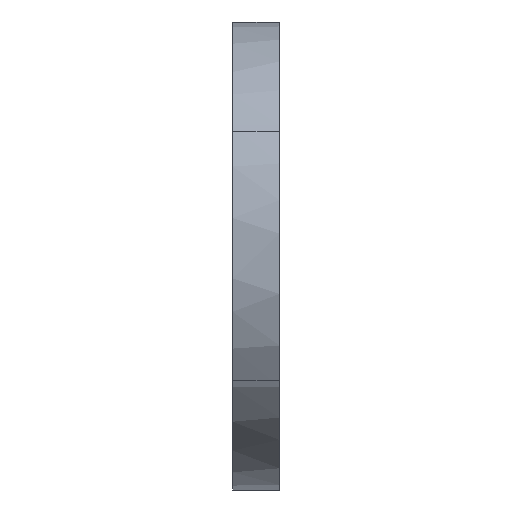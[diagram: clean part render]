
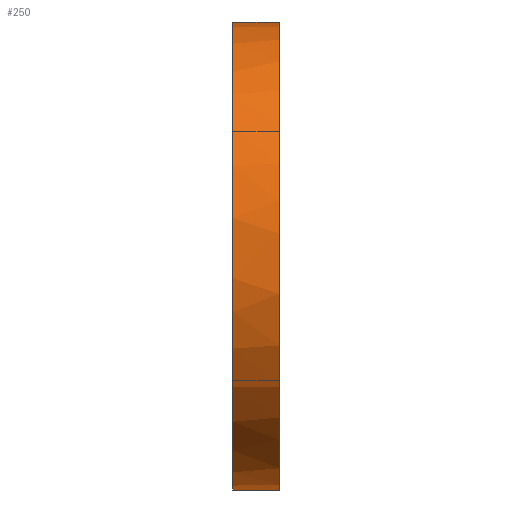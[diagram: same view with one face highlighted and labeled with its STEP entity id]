
A CAD part, left-side view. The second image highlights one B-rep face of the part: STEP entity #250.
In plain terms, the highlighted free-form (B-spline) face has degree [1, 2] with [2, 9] control points.
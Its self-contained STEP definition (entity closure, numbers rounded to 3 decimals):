
#250=ADVANCED_FACE('',(#268),#785,.T.);
#268=FACE_OUTER_BOUND('',#291,.T.);
#291=EDGE_LOOP('',(#345,#346,#347,#348));
#345=ORIENTED_EDGE('',*,*,#633,.T.);
#346=ORIENTED_EDGE('',*,*,#634,.T.);
#347=ORIENTED_EDGE('',*,*,#635,.T.);
#348=ORIENTED_EDGE('',*,*,#636,.T.);
#395=(
BOUNDED_CURVE()
B_SPLINE_CURVE(2,(#1520,#1521,#1522,#1523,#1524),.UNSPECIFIED.,.F.,.F.)
B_SPLINE_CURVE_WITH_KNOTS((3,2,3),(1.,2.571,4.142),
 .UNSPECIFIED.)
CURVE()
GEOMETRIC_REPRESENTATION_ITEM()
RATIONAL_B_SPLINE_CURVE((1.,0.707,1.,0.707,1.))
REPRESENTATION_ITEM('')
);
#396=(
BOUNDED_CURVE()
B_SPLINE_CURVE(2,(#1531,#1532,#1533,#1534,#1535),.UNSPECIFIED.,.F.,.F.)
B_SPLINE_CURVE_WITH_KNOTS((3,2,3),(5.142,6.712,8.283),
 .UNSPECIFIED.)
CURVE()
GEOMETRIC_REPRESENTATION_ITEM()
RATIONAL_B_SPLINE_CURVE((1.,0.707,1.,0.707,1.))
REPRESENTATION_ITEM('')
);
#453=PCURVE('',#785,#513);
#454=PCURVE('',#785,#514);
#455=PCURVE('',#785,#515);
#456=PCURVE('',#785,#516);
#513=DEFINITIONAL_REPRESENTATION('',(#704),#1621);
#514=DEFINITIONAL_REPRESENTATION('',(#705),#1621);
#515=DEFINITIONAL_REPRESENTATION('',(#707),#1621);
#516=DEFINITIONAL_REPRESENTATION('',(#708),#1621);
#573=SURFACE_CURVE('',#703,(#453),.PCURVE_S1.);
#574=SURFACE_CURVE('',#395,(#454),.PCURVE_S1.);
#575=SURFACE_CURVE('',#706,(#455),.PCURVE_S1.);
#576=SURFACE_CURVE('',#396,(#456),.PCURVE_S1.);
#633=EDGE_CURVE('',#765,#766,#573,.T.);
#634=EDGE_CURVE('',#766,#767,#574,.T.);
#635=EDGE_CURVE('',#767,#768,#575,.T.);
#636=EDGE_CURVE('',#768,#765,#576,.T.);
#703=B_SPLINE_CURVE_WITH_KNOTS('',1,(#1516,#1517),.UNSPECIFIED.,.F.,.F.,
(2,2),(0.,1.),.UNSPECIFIED.);
#704=B_SPLINE_CURVE_WITH_KNOTS('',1,(#1518,#1519),.UNSPECIFIED.,.F.,.F.,
(2,2),(0.,1.),.UNSPECIFIED.);
#705=B_SPLINE_CURVE_WITH_KNOTS('',1,(#1525,#1526),.UNSPECIFIED.,.F.,.F.,
(2,2),(1.,4.142),.UNSPECIFIED.);
#706=B_SPLINE_CURVE_WITH_KNOTS('',1,(#1527,#1528),.UNSPECIFIED.,.F.,.F.,
(2,2),(4.142,5.142),.UNSPECIFIED.);
#707=B_SPLINE_CURVE_WITH_KNOTS('',1,(#1529,#1530),.UNSPECIFIED.,.F.,.F.,
(2,2),(4.142,5.142),.UNSPECIFIED.);
#708=B_SPLINE_CURVE_WITH_KNOTS('',1,(#1536,#1537),.UNSPECIFIED.,.F.,.F.,
(2,2),(5.142,8.283),.UNSPECIFIED.);
#765=VERTEX_POINT('',#1512);
#766=VERTEX_POINT('',#1513);
#767=VERTEX_POINT('',#1514);
#768=VERTEX_POINT('',#1515);
#785=(
BOUNDED_SURFACE()
B_SPLINE_SURFACE(1,2,((#1494,#1495,#1496,#1497,#1498,#1499,#1500,#1501,#1502),
(#1503,#1504,#1505,#1506,#1507,#1508,#1509,#1510,#1511)),.UNSPECIFIED.,.F.,
 .F.,.F.)
B_SPLINE_SURFACE_WITH_KNOTS((2,2),(3,2,2,2,3),(0.,1.),(0.,1.571,
3.142,4.712,6.283),.UNSPECIFIED.)
GEOMETRIC_REPRESENTATION_ITEM()
RATIONAL_B_SPLINE_SURFACE(((1.,0.707,1.,0.707,1.,
0.707,1.,0.707,1.),(1.,0.707,1.,0.707,
1.,0.707,1.,0.707,1.)))
REPRESENTATION_ITEM('')
SURFACE()
);
#1494=CARTESIAN_POINT('',(-840.,-539.,94.));
#1495=CARTESIAN_POINT('',(-835.,-539.,94.));
#1496=CARTESIAN_POINT('',(-835.,-539.,89.));
#1497=CARTESIAN_POINT('',(-835.,-539.,84.));
#1498=CARTESIAN_POINT('',(-840.,-539.,84.));
#1499=CARTESIAN_POINT('',(-845.,-539.,84.));
#1500=CARTESIAN_POINT('',(-845.,-539.,89.));
#1501=CARTESIAN_POINT('',(-845.,-539.,94.));
#1502=CARTESIAN_POINT('',(-840.,-539.,94.));
#1503=CARTESIAN_POINT('',(-840.,-538.,94.));
#1504=CARTESIAN_POINT('',(-835.,-538.,94.));
#1505=CARTESIAN_POINT('',(-835.,-538.,89.));
#1506=CARTESIAN_POINT('',(-835.,-538.,84.));
#1507=CARTESIAN_POINT('',(-840.,-538.,84.));
#1508=CARTESIAN_POINT('',(-845.,-538.,84.));
#1509=CARTESIAN_POINT('',(-845.,-538.,89.));
#1510=CARTESIAN_POINT('',(-845.,-538.,94.));
#1511=CARTESIAN_POINT('',(-840.,-538.,94.));
#1512=CARTESIAN_POINT('',(-840.,-538.,94.));
#1513=CARTESIAN_POINT('',(-840.,-539.,94.));
#1514=CARTESIAN_POINT('',(-840.,-539.,84.));
#1515=CARTESIAN_POINT('',(-840.,-538.,84.));
#1516=CARTESIAN_POINT('',(-840.,-538.,94.));
#1517=CARTESIAN_POINT('',(-840.,-539.,94.));
#1518=CARTESIAN_POINT('',(1.,6.283));
#1519=CARTESIAN_POINT('',(0.,6.283));
#1520=CARTESIAN_POINT('',(-840.,-539.,94.));
#1521=CARTESIAN_POINT('',(-845.,-539.,94.));
#1522=CARTESIAN_POINT('',(-845.,-539.,89.));
#1523=CARTESIAN_POINT('',(-845.,-539.,84.));
#1524=CARTESIAN_POINT('',(-840.,-539.,84.));
#1525=CARTESIAN_POINT('',(0.,6.283));
#1526=CARTESIAN_POINT('',(0.,3.142));
#1527=CARTESIAN_POINT('',(-840.,-539.,84.));
#1528=CARTESIAN_POINT('',(-840.,-538.,84.));
#1529=CARTESIAN_POINT('',(0.,3.142));
#1530=CARTESIAN_POINT('',(1.,3.142));
#1531=CARTESIAN_POINT('',(-840.,-538.,84.));
#1532=CARTESIAN_POINT('',(-845.,-538.,84.));
#1533=CARTESIAN_POINT('',(-845.,-538.,89.));
#1534=CARTESIAN_POINT('',(-845.,-538.,94.));
#1535=CARTESIAN_POINT('',(-840.,-538.,94.));
#1536=CARTESIAN_POINT('',(1.,3.142));
#1537=CARTESIAN_POINT('',(1.,6.283));
#1621=(
GEOMETRIC_REPRESENTATION_CONTEXT(2)
PARAMETRIC_REPRESENTATION_CONTEXT()
REPRESENTATION_CONTEXT('pspace','')
);
